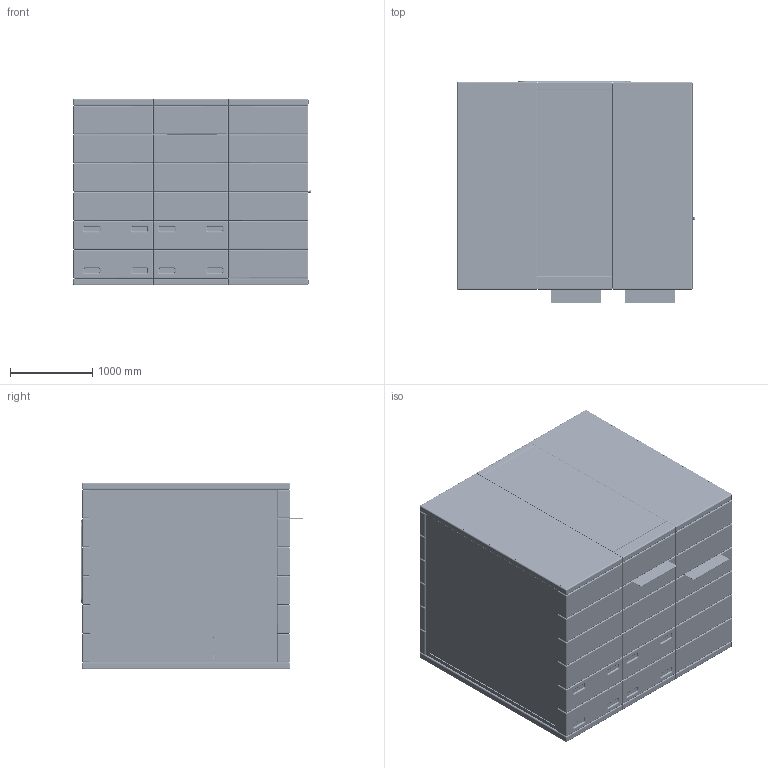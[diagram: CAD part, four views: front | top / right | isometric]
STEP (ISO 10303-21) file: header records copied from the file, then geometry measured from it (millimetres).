
FILE_DESCRIPTION(/* description */ (''),/* implementation_level */ '2;1');
FILE_NAME(/* name */ 'REALM_STEP.step',/* time_stamp */ '2024-05-22T10:59:07+02:00',/* author */ (''),/* organization */ (''),/* preprocessor_version */ 'ST-DEVELOPER v20',/* originating_system */ 'Autodesk Translation Framework v13.14.0.145',/* authorisation */ '');
FILE_SCHEMA (('AUTOMOTIVE_DESIGN { 1 0 10303 214 3 1 1 }'));
Products named in the file (304): REALM_STEP v6 v4; Components; Floor; Koberec; QUADRIO_IN_podlaha mřížka Q3 v4; QUADRIO_IN_podlaha mřížka Q3 v4 (1); latka (26); Front_frame; ram_predni (5); QUADRIO_SKLO_9.00 - DVEŘE s protiplechy v1
3; 3.1.1._glass; Protiplech 60 mm v9; Protiplech 60 mm v9 (1); Protiplech 40 mm v8; QUADRIO_SKLO_10.00 - PREDNI v5; 3.1.1._glass (1); QUADRIO_SKLO_10.00 - PREDNI v5 (1); 3.1.1._glass (2); Magneticke kovani do zárubně v14; Magneticke kovani do zárubně v14 (1); Magneticke kovani do zárubně v14 (2); Pant na skleněné dveře v31; Pant na skleněné dveře v31 
(1); Madlo dub pár v7; lista (1); lista; Rear_frame; ram_zadni (3); QUADRIO_SKLO_8.00 - ZADNÍ v5; 3.1.1._glass (3); QUADRIO_SKLO_8.00 - ZADNÍ v5 (1); 3.1.1._glass (4); QUADRIO_SKLO_8.00 - ZADNÍ v5 (3); 3.1.1._glass (3) (1); Sitting; Křeslo01; Component6; Křeslo02; Component4; Křeslo03 ...
Assembly tree (379 placements, depth 7):
  REALM_STEP v6 v4
    Components
      Floor
        Koberec
        QUADRIO_IN_podlaha mřížka Q3 v4
          latka (26)
        QUADRIO_IN_podlaha mřížka Q3 v4 (1)
          latka (26)
      Front_frame
        ram_predni (5)
        QUADRIO_SKLO_9.00 - DVEŘE s protiplechy v1
3
          3.1.1._glass
          Protiplech 60 mm v9
          Protiplech 60 mm v9 (1)
          Protiplech 40 mm v8
        QUADRIO_SKLO_10.00 - PREDNI v5
          3.1.1._glass (1)
        QUADRIO_SKLO_10.00 - PREDNI v5 (1)
          3.1.1._glass (2)
        Magneticke kovani do zárubně v14
        Magneticke kovani do zárubně v14 (1)
        Magneticke kovani do zárubně v14 (2)
        Pant na skleněné dveře v31
        Pant na skleněné dveře v31 
(1)
        Madlo dub pár v7
        lista (1)
          lista
      Rear_frame
        ram_zadni (3)
        QUADRIO_SKLO_8.00 - ZADNÍ v5
          3.1.1._glass (3)
        QUADRIO_SKLO_8.00 - ZADNÍ v5 (1)
          3.1.1._glass (4)
        QUADRIO_SKLO_8.00 - ZADNÍ v5 (3)
          3.1.1._glass (3) (1)
      Sitting
        Křeslo01
          Component6
          noha v2  x4
        Křeslo02
          Component4
          noha v2  x4
        Křeslo03
          Component2
          noha v2  x4
      Socket
      Roof
        Rám_sklo
          Component738
      Glass_ceiling
      Table
        #386970
          #386971
          #386972  x3
          #386973
        421-423 v2
          #386975
            #386976
            #386977
            #386978  x3
Bounding box: 2886.5 x 2697.5 x 2270 mm (x, y, z)
Volume: 765205537.4 mm3; surface area: 162388622.2 mm2
Topology: 287 solids, 288 shells, 14310 faces, 33922 edges, 20520 vertices
Faces by surface type: plane 9227, cylinder 3841, bspline 694, torus 199, cone 189, sphere 160
Full cylindrical faces by diameter (mm): 1 x7, 1.5 x8, 2 x2, 3 x15, 4 x14, 4.305 x2, 4.701 x42, 5 x18, 5.035 x18, 5.3 x3, 5.5 x12, 5.65 x6, 6 x84, 6.152 x2, 6.2 x2, 6.5 x8, 8 x13, 8.3 x3, 9 x1, 9.5 x40, 10 x44, 10.5 x2, 12 x1, 14 x8, 16 x8, 19 x5, 20 x13, 23 x3, 26 x4, 28 x12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
Entity records: 387437 total; most frequent: CARTESIAN_POINT 97216, DIRECTION 58216, ORIENTED_EDGE 58006, EDGE_CURVE 29003, LINE 20796, VECTOR 20796, AXIS2_PLACEMENT_3D 18710, VERTEX_POINT 17760
